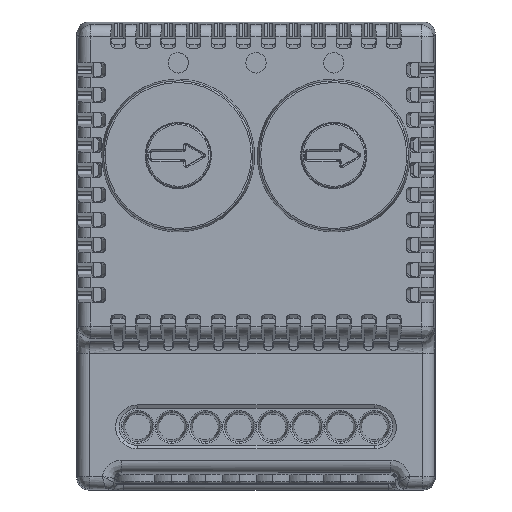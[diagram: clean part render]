
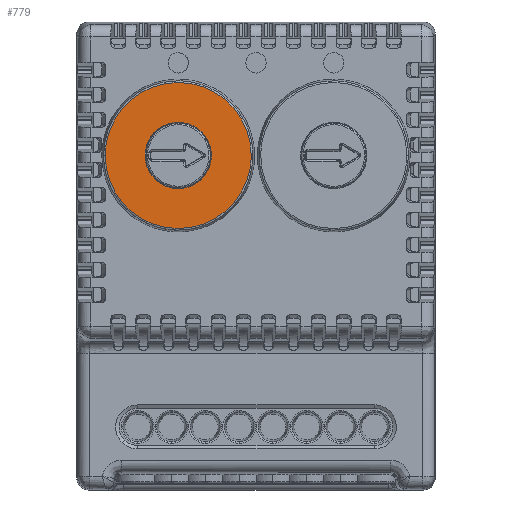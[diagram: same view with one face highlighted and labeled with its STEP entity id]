
A CAD part, top view. The second image highlights one B-rep face of the part: STEP entity #779.
In plain terms, the highlighted planar face has unit normal (0, 0, 1).
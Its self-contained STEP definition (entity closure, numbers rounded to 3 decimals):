
#72=FACE_BOUND('',#3009,.T.);
#779=ADVANCED_FACE('',(#1886,#72),#18108,.T.);
#1886=FACE_OUTER_BOUND('',#3008,.T.);
#3008=EDGE_LOOP('',(#7186,#7187));
#3009=EDGE_LOOP('',(#7188,#7189));
#7186=ORIENTED_EDGE('',*,*,#11076,.T.);
#7187=ORIENTED_EDGE('',*,*,#11085,.T.);
#7188=ORIENTED_EDGE('',*,*,#9765,.F.);
#7189=ORIENTED_EDGE('',*,*,#9753,.F.);
#9753=EDGE_CURVE('',#15574,#15575,#12659,.T.);
#9765=EDGE_CURVE('',#15575,#15574,#12671,.T.);
#11076=EDGE_CURVE('',#16843,#16844,#13340,.T.);
#11085=EDGE_CURVE('',#16844,#16843,#13349,.T.);
#12659=(
BOUNDED_CURVE()
B_SPLINE_CURVE(2,(#42665,#42666,#42667,#42668,#42669),.UNSPECIFIED.,.F.,
 .F.)
B_SPLINE_CURVE_WITH_KNOTS((3,2,3),(15.55,23.325,31.1),
 .UNSPECIFIED.)
CURVE()
GEOMETRIC_REPRESENTATION_ITEM()
RATIONAL_B_SPLINE_CURVE((1.,0.707,1.,0.707,1.))
REPRESENTATION_ITEM('')
);
#12671=(
BOUNDED_CURVE()
B_SPLINE_CURVE(2,(#42710,#42711,#42712,#42713,#42714),.UNSPECIFIED.,.F.,
 .F.)
B_SPLINE_CURVE_WITH_KNOTS((3,2,3),(0.,7.775,15.55),
 .UNSPECIFIED.)
CURVE()
GEOMETRIC_REPRESENTATION_ITEM()
RATIONAL_B_SPLINE_CURVE((1.,0.707,1.,0.707,1.))
REPRESENTATION_ITEM('')
);
#13340=(
BOUNDED_CURVE()
B_SPLINE_CURVE(3,(#51333,#51334,#51335,#51336,#51337,#51338,#51339,#51340,
#51341,#51342,#51343,#51344,#51345,#51346,#51347,#51348,#51349,#51350,#51351,
#51352,#51353,#51354),.UNSPECIFIED.,.F.,.F.)
B_SPLINE_CURVE_WITH_KNOTS((4,1,1,1,1,1,1,1,1,1,1,1,1,1,1,1,1,1,1,4),(-33.913,
-32.733,-31.553,-29.44,-28.343,
-27.247,-26.201,-25.155,-23.069,-21.98,
-20.892,-18.924,-16.956,-14.597,
-12.484,-10.29,-8.199,-6.112,
-3.936,0.),.UNSPECIFIED.)
CURVE()
GEOMETRIC_REPRESENTATION_ITEM()
RATIONAL_B_SPLINE_CURVE((1.,1.,1.,1.,1.,1.,1.,1.,1.,1.,1.,1.,1.,1.,1.,1.,
1.,1.,1.,1.,1.,1.))
REPRESENTATION_ITEM('')
);
#13349=(
BOUNDED_CURVE()
B_SPLINE_CURVE(3,(#51474,#51475,#51476,#51477,#51478,#51479,#51480,#51481,
#51482,#51483,#51484,#51485,#51486,#51487,#51488,#51489,#51490,#51491,#51492,
#51493,#51494,#51495),.UNSPECIFIED.,.F.,.F.)
B_SPLINE_CURVE_WITH_KNOTS((4,1,1,1,1,1,1,1,1,1,1,1,1,1,1,1,1,1,1,4),(-33.913,
-32.733,-31.553,-29.44,-28.343,
-27.247,-26.201,-25.155,-23.069,
-21.98,-20.892,-18.924,-16.956,
-14.597,-12.484,-10.29,-8.199,
-6.112,-3.936,0.),.UNSPECIFIED.)
CURVE()
GEOMETRIC_REPRESENTATION_ITEM()
RATIONAL_B_SPLINE_CURVE((1.,1.,1.,1.,1.,1.,1.,1.,1.,1.,1.,1.,1.,1.,1.,1.,
1.,1.,1.,1.,1.,1.))
REPRESENTATION_ITEM('')
);
#15574=VERTEX_POINT('',#39627);
#15575=VERTEX_POINT('',#39628);
#16843=VERTEX_POINT('',#40896);
#16844=VERTEX_POINT('',#40897);
#18108=PLANE('',#18576);
#18576=AXIS2_PLACEMENT_3D('',#35121,#19027,$);
#19027=DIRECTION('',(0.,0.,1.));
#35121=CARTESIAN_POINT('',(-88.576,125.278,33.1));
#39627=CARTESIAN_POINT('',(-70.718,138.322,33.1));
#39628=CARTESIAN_POINT('',(-80.518,138.322,33.1));
#40896=CARTESIAN_POINT('',(-86.413,138.322,33.1));
#40897=CARTESIAN_POINT('',(-64.823,138.322,33.1));
#42665=CARTESIAN_POINT('',(-70.718,138.322,33.1));
#42666=CARTESIAN_POINT('',(-70.718,143.222,33.1));
#42667=CARTESIAN_POINT('',(-75.618,143.222,33.1));
#42668=CARTESIAN_POINT('',(-80.518,143.222,33.1));
#42669=CARTESIAN_POINT('',(-80.518,138.322,33.1));
#42710=CARTESIAN_POINT('',(-80.518,138.322,33.1));
#42711=CARTESIAN_POINT('',(-80.518,133.422,33.1));
#42712=CARTESIAN_POINT('',(-75.618,133.422,33.1));
#42713=CARTESIAN_POINT('',(-70.718,133.422,33.1));
#42714=CARTESIAN_POINT('',(-70.718,138.322,33.1));
#51333=CARTESIAN_POINT('',(-86.413,138.322,33.1));
#51334=CARTESIAN_POINT('',(-86.413,137.928,33.1));
#51335=CARTESIAN_POINT('',(-86.37,137.142,33.1));
#51336=CARTESIAN_POINT('',(-86.126,135.669,33.1));
#51337=CARTESIAN_POINT('',(-85.668,134.271,33.1));
#51338=CARTESIAN_POINT('',(-85.024,132.987,33.1));
#51339=CARTESIAN_POINT('',(-84.443,132.075,33.1));
#51340=CARTESIAN_POINT('',(-83.786,131.238,33.1));
#51341=CARTESIAN_POINT('',(-82.822,130.23,33.1));
#51342=CARTESIAN_POINT('',(-81.708,129.36,33.1));
#51343=CARTESIAN_POINT('',(-80.47,128.659,33.1));
#51344=CARTESIAN_POINT('',(-79.205,128.101,33.1));
#51345=CARTESIAN_POINT('',(-77.585,127.647,33.1));
#51346=CARTESIAN_POINT('',(-75.487,127.455,33.1));
#51347=CARTESIAN_POINT('',(-73.34,127.69,33.1));
#51348=CARTESIAN_POINT('',(-71.218,128.385,33.1));
#51349=CARTESIAN_POINT('',(-69.354,129.443,33.1));
#51350=CARTESIAN_POINT('',(-67.741,130.841,33.1));
#51351=CARTESIAN_POINT('',(-66.432,132.518,33.1));
#51352=CARTESIAN_POINT('',(-65.199,134.973,33.1));
#51353=CARTESIAN_POINT('',(-64.822,137.01,33.1));
#51354=CARTESIAN_POINT('',(-64.823,138.322,33.1));
#51474=CARTESIAN_POINT('',(-64.823,138.322,33.1));
#51475=CARTESIAN_POINT('',(-64.822,138.715,33.1));
#51476=CARTESIAN_POINT('',(-64.866,139.502,33.1));
#51477=CARTESIAN_POINT('',(-65.109,140.975,33.1));
#51478=CARTESIAN_POINT('',(-65.567,142.372,33.1));
#51479=CARTESIAN_POINT('',(-66.212,143.657,33.1));
#51480=CARTESIAN_POINT('',(-66.792,144.569,33.1));
#51481=CARTESIAN_POINT('',(-67.449,145.405,33.1));
#51482=CARTESIAN_POINT('',(-68.413,146.413,33.1));
#51483=CARTESIAN_POINT('',(-69.527,147.283,33.1));
#51484=CARTESIAN_POINT('',(-70.765,147.985,33.1));
#51485=CARTESIAN_POINT('',(-72.031,148.543,33.1));
#51486=CARTESIAN_POINT('',(-73.65,148.997,33.1));
#51487=CARTESIAN_POINT('',(-75.748,149.189,33.1));
#51488=CARTESIAN_POINT('',(-77.895,148.953,33.1));
#51489=CARTESIAN_POINT('',(-80.017,148.258,33.1));
#51490=CARTESIAN_POINT('',(-81.882,147.201,33.1));
#51491=CARTESIAN_POINT('',(-83.494,145.803,33.1));
#51492=CARTESIAN_POINT('',(-84.803,144.125,33.1));
#51493=CARTESIAN_POINT('',(-86.037,141.671,33.1));
#51494=CARTESIAN_POINT('',(-86.414,139.634,33.1));
#51495=CARTESIAN_POINT('',(-86.413,138.322,33.1));
